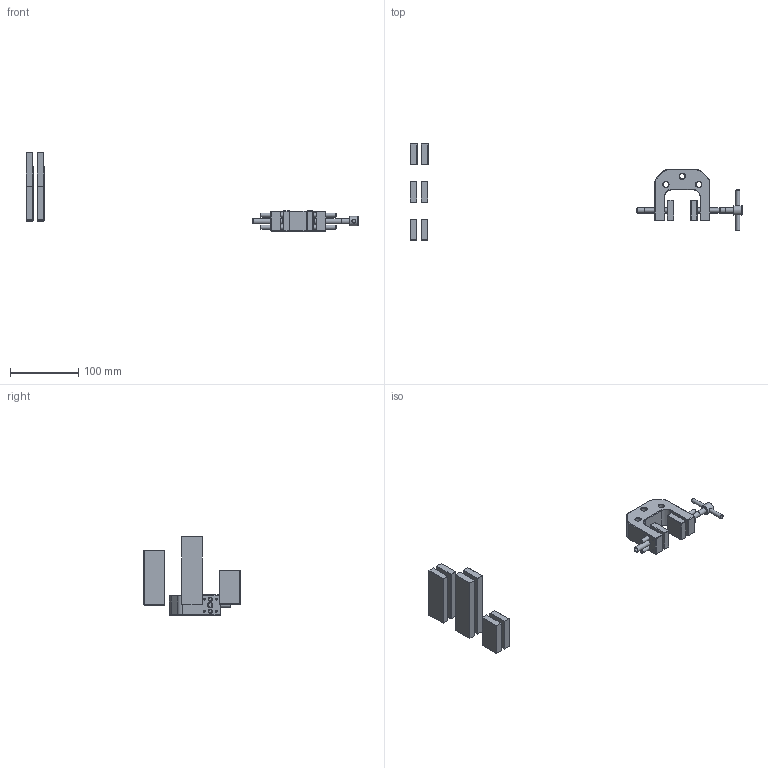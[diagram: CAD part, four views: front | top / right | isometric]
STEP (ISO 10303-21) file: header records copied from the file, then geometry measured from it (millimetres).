
FILE_DESCRIPTION((''),'2;1');
FILE_NAME('F:\SHARED FILES\DENE\3D MARKETING MODELS\WORK IN PROGRESS\NEW GRIPS 112117\G1101\G1101 MODEL.stp','2017-11-29T09:53:20',('mlampen'),(''),'Autodesk Inventor 2010','Autodesk Inventor 2010','');
FILE_SCHEMA(('AUTOMOTIVE_DESIGN { 1 0 10303 214 1 1 1 1 }'));
Length unit declared in the file: inch
Products named in the file (16): Assembly1; Part2; Part4; Part6; Part8; Part10; Part12; Part14; Part16; Part18; Part20; Part22; Part24; Part26; Part28; Part30
Assembly tree (15 placements, depth 2):
  Assembly1
    Part2
    Part4
    Part6
    Part8
    Part10
    Part12
    Part14
    Part16
    Part18
    Part20
    Part22
    Part24
    Part26
    Part28
    Part30
Bounding box: 487.4 x 141.33 x 115.69 mm (x, y, z)
Volume: 254075 mm3; surface area: 78077.9 mm2
Topology: 15 solids, 15 shells, 341 faces, 766 edges, 495 vertices
Faces by surface type: plane 216, cylinder 61, cone 36, bspline 28
Full cylindrical faces by diameter (mm): 2.578 x8, 5.969 x2, 5.982 x2, 5.994 x4, 6.045 x24, 6.096 x4, 6.858 x2, 7.874 x2, 7.899 x1, 8.001 x4, 13.97 x1, 15.913 x1
Entity records: 9588 total; most frequent: CARTESIAN_POINT 1756, DIRECTION 1518, ORIENTED_EDGE 1360, EDGE_CURVE 680, VECTOR 522, LINE 522, AXIS2_PLACEMENT_3D 498, VERTEX_POINT 488
